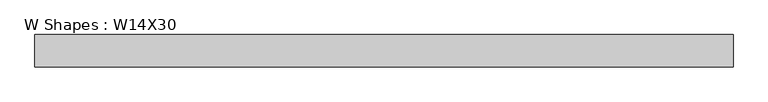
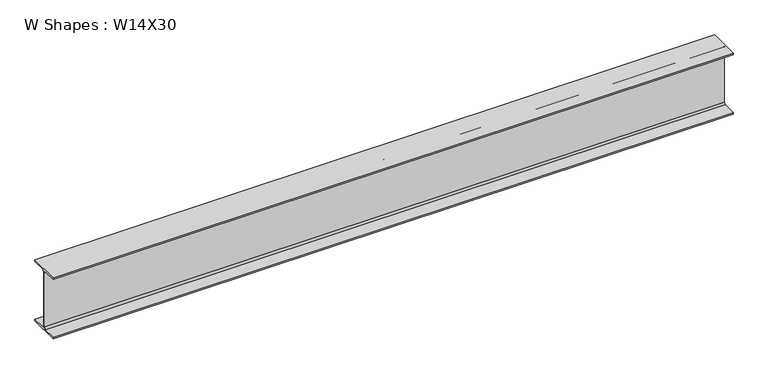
"""IFC4 building model written with IfcOpenShell, lengths in millimetres: beam geometry, W Shapes : W14X30."""

from ifc_helpers import new_model, si_unit, point, frame, frame_2d, origin, place, context, project, spatial, polyline, circle_curve, trimmed, segment, composite_curve, outline, extrude, source, transform, mapped, element, save


def w_shapes_w14x30_ff060446(model_context):
    return source(origin(), model_context, "Body", "SweptSolid", [
        extrude(outline(composite_curve([segment(polyline([(85.471, -165.354), (85.471, -175.26), (-85.471, -175.26), (-85.471, -165.354), (-13.589, -165.354)]), True, "CONTINUOUS"), segment(trimmed(circle_curve(frame_2d((-13.589, -155.194)), 10.16), [point((-13.589, -165.354))], [point((-3.429, -155.194))], True, "CARTESIAN"), True, "CONTINUOUS"), segment(polyline([(-3.429, -155.194), (-3.429, 155.194)]), True, "CONTINUOUS"), segment(trimmed(circle_curve(frame_2d((-13.589, 155.194)), 10.16), [point((-3.429, 155.194))], [point((-13.589, 165.354))], True, "CARTESIAN"), True, "CONTINUOUS"), segment(polyline([(-13.589, 165.354), (-85.471, 165.354), (-85.471, 175.26), (85.471, 175.26), (85.471, 165.354), (13.589, 165.354)]), True, "CONTINUOUS"), segment(trimmed(circle_curve(frame_2d((13.589, 155.194)), 10.16), [point((13.589, 165.354))], [point((3.429, 155.194))], True, "CARTESIAN"), True, "CONTINUOUS"), segment(polyline([(3.429, 155.194), (3.429, -155.194)]), True, "CONTINUOUS"), segment(trimmed(circle_curve(frame_2d((13.589, -155.194)), 10.16), [point((3.429, -155.194))], [point((13.589, -165.354))], True, "CARTESIAN"), True, "CONTINUOUS"), segment(polyline([(13.589, -165.354), (85.471, -165.354)]), True, "CONTINUOUS")], self_intersect=False)), frame((-1840.8101826, 0.0, 0.0), z_axis=(1.0, 0.0, 0.0), x_axis=(0.0, 1.0, 0.0)), (0.0, 0.0, 1.0), 3681.6203653),
    ])


if __name__ == "__main__":
    model = new_model("IFC4")
    model_context = context("Model", 3, world=origin())
    ifc_project = project(units=[si_unit("LENGTHUNIT", "METRE", prefix="MILLI")], contexts=[model_context])
    site = spatial("IfcSite", under=ifc_project)
    building = spatial("IfcBuilding", under=site)
    placement = place(None, origin())
    w_shapes_w14x30_shape = w_shapes_w14x30_ff060446(model_context)
    element("IfcBeam", 1, ObjectType="W Shapes : W14X30", at=placement, inside=building, context=model_context, shape_type="MappedRepresentation", body=[
        mapped(w_shapes_w14x30_shape, transform((0.0, 0.0, 0.0), x_axis=(1.0, 0.0, 0.0), y_axis=(0.0, 1.0, 0.0), z_axis=(0.0, 0.0, 1.0))),
    ])
    save(model, "model.ifc")
